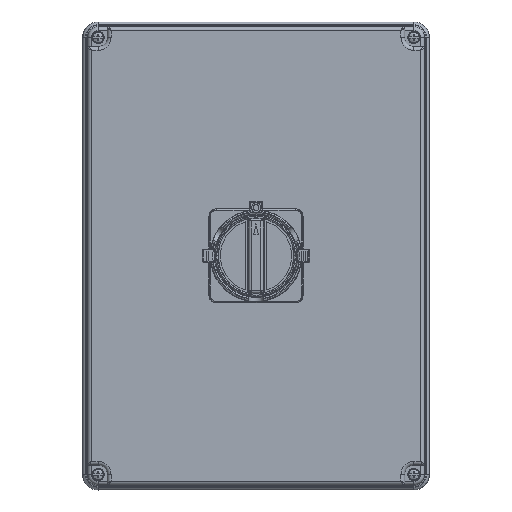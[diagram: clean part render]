
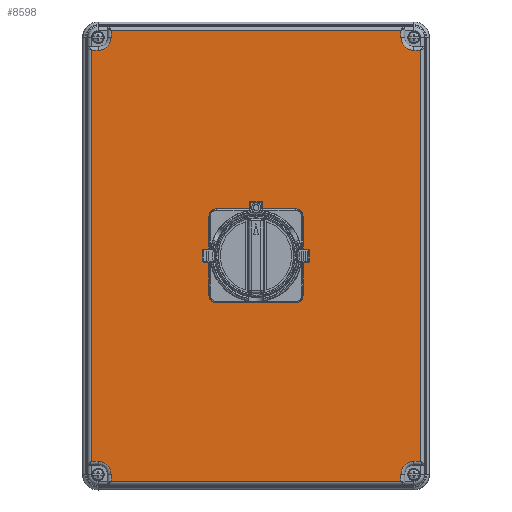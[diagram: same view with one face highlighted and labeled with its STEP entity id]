
A CAD part, top view. The second image highlights one B-rep face of the part: STEP entity #8598.
In plain terms, the highlighted planar face has unit normal (0, 0, 1).
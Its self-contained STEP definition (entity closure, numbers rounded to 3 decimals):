
#5432=FACE_BOUND('',#13095,.T.);
#5433=FACE_BOUND('',#13096,.T.);
#5434=FACE_BOUND('',#13097,.T.);
#5435=FACE_BOUND('',#13098,.T.);
#5436=FACE_BOUND('',#13099,.T.);
#5437=FACE_BOUND('',#13100,.T.);
#6696=CIRCLE('',#37204,8.5);
#6699=CIRCLE('',#37208,8.5);
#6791=CIRCLE('',#37418,8.5);
#6794=CIRCLE('',#37422,8.5);
#6806=CIRCLE('',#37502,1.75);
#6807=CIRCLE('',#37503,1.75);
#6808=CIRCLE('',#37504,1.75);
#6809=CIRCLE('',#37505,1.75);
#6810=CIRCLE('',#37506,12.5);
#8598=ADVANCED_FACE('',(#5432,#5433,#5434,#5435,#5436,#5437),#9516,.T.);
#9516=PLANE('',#37507);
#13095=EDGE_LOOP('',(#21812));
#13096=EDGE_LOOP('',(#21813));
#13097=EDGE_LOOP('',(#21814));
#13098=EDGE_LOOP('',(#21815));
#13099=EDGE_LOOP('',(#21816));
#13100=EDGE_LOOP('',(#21817,#21818,#21819,#21820,#21821,#21822,#21823,#21824,
#21825,#21826,#21827,#21828,#21829,#21830,#21831,#21832));
#21812=ORIENTED_EDGE('',*,*,#29377,.T.);
#21813=ORIENTED_EDGE('',*,*,#29378,.T.);
#21814=ORIENTED_EDGE('',*,*,#29379,.T.);
#21815=ORIENTED_EDGE('',*,*,#29380,.T.);
#21816=ORIENTED_EDGE('',*,*,#29381,.T.);
#21817=ORIENTED_EDGE('',*,*,#28938,.F.);
#21818=ORIENTED_EDGE('',*,*,#28979,.F.);
#21819=ORIENTED_EDGE('',*,*,#28976,.T.);
#21820=ORIENTED_EDGE('',*,*,#28987,.F.);
#21821=ORIENTED_EDGE('',*,*,#28941,.F.);
#21822=ORIENTED_EDGE('',*,*,#28983,.F.);
#21823=ORIENTED_EDGE('',*,*,#29382,.T.);
#21824=ORIENTED_EDGE('',*,*,#29286,.T.);
#21825=ORIENTED_EDGE('',*,*,#29242,.T.);
#21826=ORIENTED_EDGE('',*,*,#29290,.T.);
#21827=ORIENTED_EDGE('',*,*,#29279,.F.);
#21828=ORIENTED_EDGE('',*,*,#29282,.T.);
#21829=ORIENTED_EDGE('',*,*,#29239,.T.);
#21830=ORIENTED_EDGE('',*,*,#29275,.T.);
#21831=ORIENTED_EDGE('',*,*,#29383,.T.);
#21832=ORIENTED_EDGE('',*,*,#28972,.F.);
#24698=VERTEX_POINT('',#64524);
#24699=VERTEX_POINT('',#64526);
#24700=VERTEX_POINT('',#64530);
#24701=VERTEX_POINT('',#64532);
#24722=VERTEX_POINT('',#64654);
#24723=VERTEX_POINT('',#64661);
#24724=VERTEX_POINT('',#64662);
#24725=VERTEX_POINT('',#64673);
#24876=VERTEX_POINT('',#65508);
#24877=VERTEX_POINT('',#65510);
#24878=VERTEX_POINT('',#65514);
#24879=VERTEX_POINT('',#65516);
#24900=VERTEX_POINT('',#65639);
#24901=VERTEX_POINT('',#65645);
#24902=VERTEX_POINT('',#65647);
#24903=VERTEX_POINT('',#65657);
#24946=VERTEX_POINT('',#65910);
#24947=VERTEX_POINT('',#65912);
#24948=VERTEX_POINT('',#65914);
#24949=VERTEX_POINT('',#65916);
#24950=VERTEX_POINT('',#65918);
#28938=EDGE_CURVE('',#24698,#24699,#6696,.T.);
#28941=EDGE_CURVE('',#24700,#24701,#6699,.T.);
#28972=EDGE_CURVE('',#24699,#24722,#31672,.T.);
#28976=EDGE_CURVE('',#24723,#24724,#31675,.T.);
#28979=EDGE_CURVE('',#24723,#24698,#31676,.T.);
#28983=EDGE_CURVE('',#24725,#24700,#31679,.T.);
#28987=EDGE_CURVE('',#24701,#24724,#31682,.T.);
#29239=EDGE_CURVE('',#24877,#24876,#6791,.T.);
#29242=EDGE_CURVE('',#24879,#24878,#6794,.T.);
#29275=EDGE_CURVE('',#24876,#24900,#31849,.T.);
#29279=EDGE_CURVE('',#24902,#24901,#31851,.T.);
#29282=EDGE_CURVE('',#24902,#24877,#31853,.T.);
#29286=EDGE_CURVE('',#24903,#24879,#31856,.T.);
#29290=EDGE_CURVE('',#24878,#24901,#31859,.T.);
#29377=EDGE_CURVE('',#24946,#24946,#6806,.T.);
#29378=EDGE_CURVE('',#24947,#24947,#6807,.T.);
#29379=EDGE_CURVE('',#24948,#24948,#6808,.T.);
#29380=EDGE_CURVE('',#24949,#24949,#6809,.T.);
#29381=EDGE_CURVE('',#24950,#24950,#6810,.T.);
#29382=EDGE_CURVE('',#24725,#24903,#31942,.T.);
#29383=EDGE_CURVE('',#24900,#24722,#31943,.T.);
#31672=LINE('',#64653,#34185);
#31675=LINE('',#64660,#34188);
#31676=LINE('',#64666,#34189);
#31679=LINE('',#64672,#34192);
#31682=LINE('',#64679,#34195);
#31849=LINE('',#65640,#34362);
#31851=LINE('',#65648,#34364);
#31853=LINE('',#65652,#34366);
#31856=LINE('',#65659,#34369);
#31859=LINE('',#65665,#34372);
#31942=LINE('',#65919,#34455);
#31943=LINE('',#65920,#34456);
#34185=VECTOR('',#45363,1.);
#34188=VECTOR('',#45372,1.);
#34189=VECTOR('',#45379,1.);
#34192=VECTOR('',#45388,1.);
#34195=VECTOR('',#45397,1.);
#34362=VECTOR('',#45970,1.);
#34364=VECTOR('',#45980,1.);
#34366=VECTOR('',#45986,1.);
#34369=VECTOR('',#45995,1.);
#34372=VECTOR('',#46004,1.);
#34455=VECTOR('',#46191,1.);
#34456=VECTOR('',#46192,1.);
#37204=AXIS2_PLACEMENT_3D('',#64525,#45298,#45299);
#37208=AXIS2_PLACEMENT_3D('',#64531,#45306,#45307);
#37418=AXIS2_PLACEMENT_3D('',#65509,#45902,#45903);
#37422=AXIS2_PLACEMENT_3D('',#65515,#45910,#45911);
#37502=AXIS2_PLACEMENT_3D('',#65909,#46181,#46182);
#37503=AXIS2_PLACEMENT_3D('',#65911,#46183,#46184);
#37504=AXIS2_PLACEMENT_3D('',#65913,#46185,#46186);
#37505=AXIS2_PLACEMENT_3D('',#65915,#46187,#46188);
#37506=AXIS2_PLACEMENT_3D('',#65917,#46189,#46190);
#37507=AXIS2_PLACEMENT_3D('',#65921,#46193,#46194);
#45298=DIRECTION('',(0.,0.,1.));
#45299=DIRECTION('',(1.,0.,0.));
#45306=DIRECTION('',(0.,0.,1.));
#45307=DIRECTION('',(1.,0.,0.));
#45363=DIRECTION('',(1.,0.,0.));
#45372=DIRECTION('',(-1.,0.,0.));
#45379=DIRECTION('',(0.,-1.,0.));
#45388=DIRECTION('',(1.,0.,0.));
#45397=DIRECTION('',(0.,1.,0.));
#45902=DIRECTION('',(0.,0.,-1.));
#45903=DIRECTION('',(1.,0.,0.));
#45910=DIRECTION('',(0.,0.,-1.));
#45911=DIRECTION('',(1.,0.,0.));
#45970=DIRECTION('',(1.,0.,0.));
#45980=DIRECTION('',(-1.,0.,0.));
#45986=DIRECTION('',(0.,1.,0.));
#45995=DIRECTION('',(1.,0.,0.));
#46004=DIRECTION('',(0.,-1.,0.));
#46181=DIRECTION('',(0.,0.,-1.));
#46182=DIRECTION('',(-1.,0.,0.));
#46183=DIRECTION('',(0.,0.,-1.));
#46184=DIRECTION('',(-1.,0.,0.));
#46185=DIRECTION('',(0.,0.,-1.));
#46186=DIRECTION('',(-1.,0.,0.));
#46187=DIRECTION('',(0.,0.,-1.));
#46188=DIRECTION('',(-1.,0.,0.));
#46189=DIRECTION('',(0.,0.,-1.));
#46190=DIRECTION('',(-1.,0.,0.));
#46191=DIRECTION('',(0.,-1.,0.));
#46192=DIRECTION('',(0.,1.,0.));
#46193=DIRECTION('',(0.,0.,1.));
#46194=DIRECTION('',(-1.,0.,0.));
#64524=CARTESIAN_POINT('',(95.5,144.,49.));
#64525=CARTESIAN_POINT('',(104.,144.,49.));
#64526=CARTESIAN_POINT('',(104.,135.5,49.));
#64530=CARTESIAN_POINT('',(-104.,135.5,49.));
#64531=CARTESIAN_POINT('',(-104.,144.,49.));
#64532=CARTESIAN_POINT('',(-95.5,144.,49.));
#64653=CARTESIAN_POINT('',(-108.511,135.5,49.));
#64654=CARTESIAN_POINT('',(108.5,135.5,49.));
#64660=CARTESIAN_POINT('',(-108.511,148.5,49.));
#64661=CARTESIAN_POINT('',(95.5,148.5,49.));
#64662=CARTESIAN_POINT('',(-95.5,148.5,49.));
#64666=CARTESIAN_POINT('',(95.5,-148.511,49.));
#64672=CARTESIAN_POINT('',(-108.511,135.5,49.));
#64673=CARTESIAN_POINT('',(-108.5,135.5,49.));
#64679=CARTESIAN_POINT('',(-95.5,-148.511,49.));
#65508=CARTESIAN_POINT('',(104.,-135.5,49.));
#65509=CARTESIAN_POINT('',(104.,-144.,49.));
#65510=CARTESIAN_POINT('',(95.5,-144.,49.));
#65514=CARTESIAN_POINT('',(-95.5,-144.,49.));
#65515=CARTESIAN_POINT('',(-104.,-144.,49.));
#65516=CARTESIAN_POINT('',(-104.,-135.5,49.));
#65639=CARTESIAN_POINT('',(108.5,-135.5,49.));
#65640=CARTESIAN_POINT('',(0.,-135.5,49.));
#65645=CARTESIAN_POINT('',(-95.5,-148.5,49.));
#65647=CARTESIAN_POINT('',(95.5,-148.5,49.));
#65648=CARTESIAN_POINT('',(-108.511,-148.5,49.));
#65652=CARTESIAN_POINT('',(95.5,0.,49.));
#65657=CARTESIAN_POINT('',(-108.5,-135.5,49.));
#65659=CARTESIAN_POINT('',(0.,-135.5,49.));
#65665=CARTESIAN_POINT('',(-95.5,0.,49.));
#65909=CARTESIAN_POINT('',(20.,0.,49.));
#65910=CARTESIAN_POINT('',(18.25,0.,49.));
#65911=CARTESIAN_POINT('',(0.,20.,49.));
#65912=CARTESIAN_POINT('',(-1.75,20.,49.));
#65913=CARTESIAN_POINT('',(0.,-20.,49.));
#65914=CARTESIAN_POINT('',(-1.75,-20.,49.));
#65915=CARTESIAN_POINT('',(-20.,0.,49.));
#65916=CARTESIAN_POINT('',(-21.75,0.,49.));
#65917=CARTESIAN_POINT('',(0.,0.,49.));
#65918=CARTESIAN_POINT('',(-12.5,0.,49.));
#65919=CARTESIAN_POINT('',(-108.5,144.011,49.));
#65920=CARTESIAN_POINT('',(108.5,-148.511,49.));
#65921=CARTESIAN_POINT('',(-108.511,-148.511,49.));
